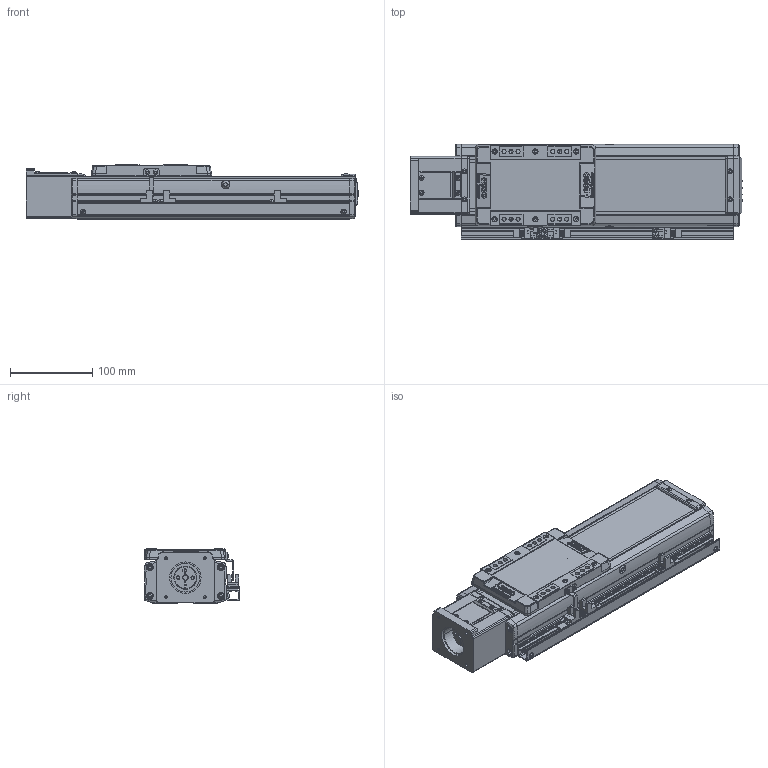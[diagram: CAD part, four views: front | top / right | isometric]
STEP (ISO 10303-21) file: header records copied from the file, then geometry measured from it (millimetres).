
FILE_DESCRIPTION(('STEP AP214'),'1');
FILE_NAME('Z:/Web/3D/SAN100/SAN100 양산용 (STEP)/SAN100ㅁㅁ-150S+3SR.stp','2013-04-24T07:04:16',(' '),(' '),'Spatial InterOp 3D',' ',' ');
FILE_SCHEMA(('automotive_design'));
Length unit declared in the file: millimetre
Products named in the file (56): MTHZ-SAN100-S56A; SDA26C-8-6.35; SSFX-SAN65; CPLCV-SAN65; M3.0 x 6.0; 스크루 : Round - M4.0 x 10.0; FRCV-SAN100; SUS COVER; SFX-SAN100; RRCV-SAN100; 스크루 : Round - M3.0 x 6.0; FRBL-SAN100; SLBL-SAN100; SLCV-SAN100; 스크루 : Countersunk - M3.0 x 6.0; BASE; 스크루 : Round - M5.0 x 6.0; EE-SX674; SBK-SX674-352; SRL-16x17-380L; SGD-SAN100
Bounding box: 402.5 x 116 x 66 mm (x, y, z)
Volume: 1291406.2 mm3; surface area: 382992.8 mm2
Topology: 56 solids, 57 shells, 2807 faces, 7376 edges, 4797 vertices
Faces by surface type: plane 1466, cylinder 983, cone 225, sphere 68, torus 45, bspline 20
Entity records: 112100 total; most frequent: CARTESIAN_POINT 17262, DIRECTION 15564, ORIENTED_EDGE 14604, EDGE_CURVE 7302, AXIS2_PLACEMENT_3D 5582, VERTEX_POINT 4797, LINE 4400, VECTOR 4400
